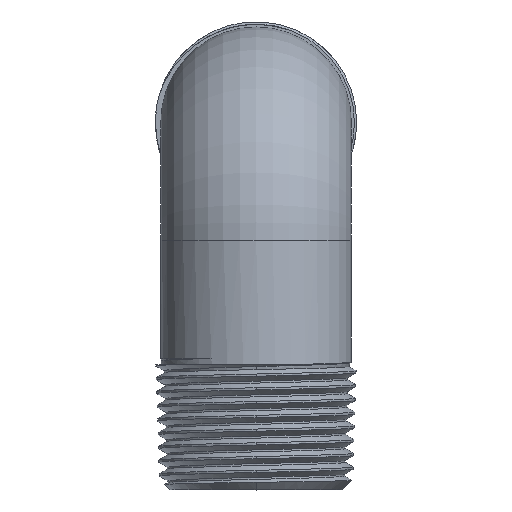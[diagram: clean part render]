
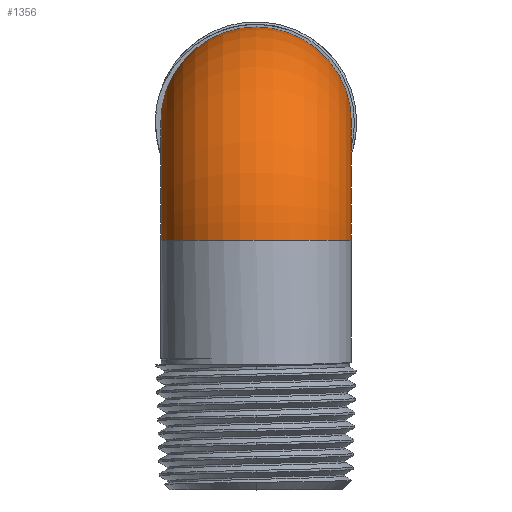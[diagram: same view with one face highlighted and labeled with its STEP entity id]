
A CAD part, top view. The second image highlights one B-rep face of the part: STEP entity #1356.
In plain terms, the highlighted toroidal (fillet/blend) face has major radius 15.621 mm and minor radius 12.573 mm.
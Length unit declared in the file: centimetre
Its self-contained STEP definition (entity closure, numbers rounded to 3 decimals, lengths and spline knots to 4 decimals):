
#104=TOROIDAL_SURFACE('',#1446,1.5621,1.2573);
#289=CIRCLE('',#1439,1.2573);
#290=CIRCLE('',#1441,1.2573);
#420=VERTEX_POINT('',#44414);
#421=VERTEX_POINT('',#44417);
#732=EDGE_CURVE('',#420,#420,#289,.T.);
#733=EDGE_CURVE('',#421,#421,#290,.T.);
#1120=ORIENTED_EDGE('',*,*,#733,.T.);
#1121=ORIENTED_EDGE('',*,*,#732,.T.);
#1201=EDGE_LOOP('',(#1120));
#1202=EDGE_LOOP('',(#1121));
#1282=FACE_BOUND('',#1201,.T.);
#1283=FACE_BOUND('',#1202,.T.);
#1356=ADVANCED_FACE('',(#1282,#1283),#104,.T.);
#1439=AXIS2_PLACEMENT_3D('',#44413,#1654,#1655);
#1441=AXIS2_PLACEMENT_3D('',#44416,#1658,#1659);
#1446=AXIS2_PLACEMENT_3D('',#44424,#1668,$);
#1654=DIRECTION('',(0.,0.,1.));
#1655=DIRECTION('',(1.257,0.,0.));
#1658=DIRECTION('',(0.,1.,0.));
#1659=DIRECTION('',(1.257,0.,0.));
#1668=DIRECTION('',(1.,0.,0.));
#44413=CARTESIAN_POINT('',(0.,0.,0.));
#44414=CARTESIAN_POINT('',(1.2573,0.,0.));
#44416=CARTESIAN_POINT('',(0.,-1.5621,1.5621));
#44417=CARTESIAN_POINT('',(1.2573,-1.5621,1.5621));
#44424=CARTESIAN_POINT('',(0.,-1.5621,0.));
